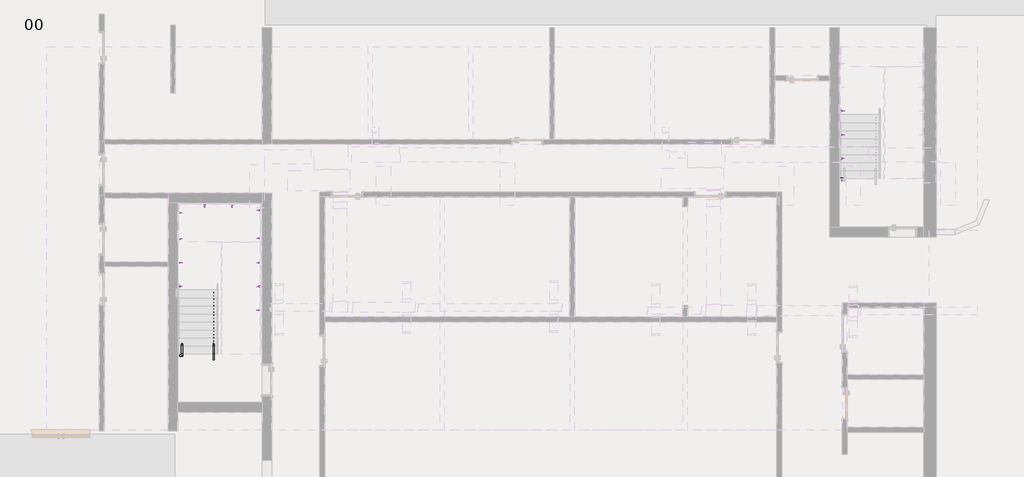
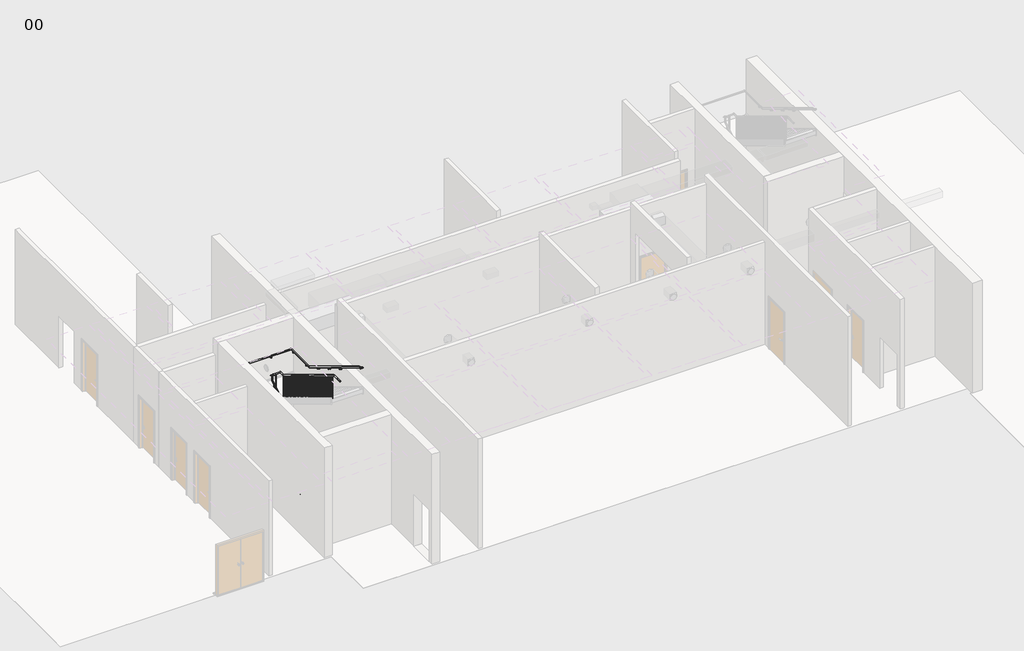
# One storey, part 9 of 12: 15 proxies, 2 railings.
"""IFC4 building model written with IfcOpenShell, lengths in millimetres."""

from ifc_helpers import new_model, si_unit, frame, origin, place, context, project, spatial, polyline, circle_curve, ellipse_curve, outline, extrude, transform, mapped, element, save
from ifc_brep_helpers import plane_surface, cylinder_surface, advanced_brep
from components import support_circular_support_bend_943144f1

model = new_model("IFC4")

# Units and contexts
model_context = context("Model", 3, world=origin())
ifc_project = project(units=[si_unit("LENGTHUNIT", "METRE", prefix="MILLI")], contexts=[model_context])

# Site, building, storey
site = spatial("IfcSite", under=ifc_project)
building = spatial("IfcBuilding", under=site)
storey = spatial("IfcBuildingStorey", under=building, Name="00", Elevation=0.0)

# Proxies
placement = place(None, origin())
support_circular_support_bend_shape = support_circular_support_bend_943144f1(model_context)
element("IfcBuildingElementProxy", 1, Name="Support_ Circular : Support_Bend", ObjectType="Support_ Circular : Support_Bend", at=placement, inside=storey, context=model_context, shape_type="MappedRepresentation", body=[
    mapped(support_circular_support_bend_shape, transform((422506.7206883, -389662.2924977, 2277.0260845), x_axis=(0.0, 1.0, 0.0), y_axis=(-1.0, 0.0, 0.0), z_axis=(0.0, 0.0, 1.0))),
])
element("IfcBuildingElementProxy", 2, Name="Support_ Circular : Support_Bend", ObjectType="Support_ Circular : Support_Bend", at=placement, inside=storey, context=model_context, shape_type="MappedRepresentation", body=[
    mapped(support_circular_support_bend_shape, transform((422506.7206883, -388918.3727809, 2723.3779147), x_axis=(0.0, 1.0, 0.0), y_axis=(-1.0, 0.0, 0.0), z_axis=(0.0, 0.0, 1.0))),
])
element("IfcBuildingElementProxy", 3, Name="Support_ Circular : Support_Bend", ObjectType="Support_ Circular : Support_Bend", at=placement, inside=storey, context=model_context, shape_type="MappedRepresentation", body=[
    mapped(support_circular_support_bend_shape, transform((422506.7206883, -388174.453064, 3169.7297448), x_axis=(0.0, 1.0, 0.0), y_axis=(-1.0, 0.0, 0.0), z_axis=(0.0, 0.0, 1.0))),
])
element("IfcBuildingElementProxy", 4, Name="Support_ Circular : Support_Bend", ObjectType="Support_ Circular : Support_Bend", at=placement, inside=storey, context=model_context, shape_type="MappedRepresentation", body=[
    mapped(support_circular_support_bend_shape, transform((422506.7206883, -387345.753659, 3310.0), x_axis=(0.0, 1.0, 0.0), y_axis=(-1.0, 0.0, 0.0), z_axis=(0.0, 0.0, 1.0))),
])
element("IfcBuildingElementProxy", 5, Name="Support_ Circular : Support_Bend", ObjectType="Support_ Circular : Support_Bend", at=placement, inside=storey, context=model_context, shape_type="MappedRepresentation", body=[
    mapped(support_circular_support_bend_shape, transform((423207.9216845, -387179.4026386, 3310.0), x_axis=(1.0, 0.0, 0.0), y_axis=(0.0, 1.0, 0.0), z_axis=(0.0, 0.0, 1.0))),
])
element("IfcBuildingElementProxy", 6, Name="Support_ Circular : Support_Bend", ObjectType="Support_ Circular : Support_Bend", at=placement, inside=storey, context=model_context, shape_type="MappedRepresentation", body=[
    mapped(support_circular_support_bend_shape, transform((424075.473701, -387179.4026386, 3310.0), x_axis=(1.0, 0.0, 0.0), y_axis=(0.0, 1.0, 0.0), z_axis=(0.0, 0.0, 1.0))),
])
element("IfcBuildingElementProxy", 7, Name="Support_ Circular : Support_Bend", ObjectType="Support_ Circular : Support_Bend", at=placement, inside=storey, context=model_context, shape_type="MappedRepresentation", body=[
    mapped(support_circular_support_bend_shape, transform((424845.9206883, -387276.5076677, 3310.0), x_axis=(0.0, -1.0, 0.0), y_axis=(1.0, 0.0, 0.0), z_axis=(0.0, 0.0, 1.0))),
])
element("IfcBuildingElementProxy", 8, Name="Support_ Circular : Support_Bend", ObjectType="Support_ Circular : Support_Bend", at=placement, inside=storey, context=model_context, shape_type="MappedRepresentation", body=[
    mapped(support_circular_support_bend_shape, transform((424845.9206883, -388144.0596842, 3310.0), x_axis=(0.0, -1.0, 0.0), y_axis=(1.0, 0.0, 0.0), z_axis=(0.0, 0.0, 1.0))),
])
element("IfcBuildingElementProxy", 9, Name="Support_ Circular : Support_Bend", ObjectType="Support_ Circular : Support_Bend", at=placement, inside=storey, context=model_context, shape_type="MappedRepresentation", body=[
    mapped(support_circular_support_bend_shape, transform((424845.9206883, -388918.3727809, 3646.6220853), x_axis=(0.0, -1.0, 0.0), y_axis=(1.0, 0.0, 0.0), z_axis=(0.0, 0.0, 1.0))),
])
element("IfcBuildingElementProxy", 10, Name="Support_ Circular : Support_Bend", ObjectType="Support_ Circular : Support_Bend", at=placement, inside=storey, context=model_context, shape_type="MappedRepresentation", body=[
    mapped(support_circular_support_bend_shape, transform((424845.9206883, -389662.2924977, 4092.9739155), x_axis=(0.0, -1.0, 0.0), y_axis=(1.0, 0.0, 0.0), z_axis=(0.0, 0.0, 1.0))),
])
element("IfcBuildingElementProxy", 11, Name="Support_ Circular : Support_Bend", ObjectType="Support_ Circular : Support_Bend", at=placement, inside=storey, context=model_context, shape_type="MappedRepresentation", body=[
    mapped(support_circular_support_bend_shape, transform((424845.9206883, -390406.2122145, 4539.3257456), x_axis=(0.0, -1.0, 0.0), y_axis=(1.0, 0.0, 0.0), z_axis=(0.0, 0.0, 1.0))),
])
element("IfcBuildingElementProxy", 12, Name="Support_ Circular : Support_Bend", ObjectType="Support_ Circular : Support_Bend", at=placement, inside=storey, context=model_context, shape_type="MappedRepresentation", body=[
    mapped(support_circular_support_bend_shape, transform((443172.7206883, -386335.0026386, 1050.0), x_axis=(1.0, 0.0, 0.0), y_axis=(0.0, 1.0, 0.0), z_axis=(0.0, 0.0, 1.0))),
])
element("IfcBuildingElementProxy", 13, Name="Support_ Circular : Support_Bend", ObjectType="Support_ Circular : Support_Bend", at=placement, inside=storey, context=model_context, shape_type="MappedRepresentation", body=[
    mapped(support_circular_support_bend_shape, transform((443252.7206883, -385650.2172722, 1384.8712198), x_axis=(0.0, 1.0, 0.0), y_axis=(-1.0, 0.0, 0.0), z_axis=(0.0, 0.0, 1.0))),
])
element("IfcBuildingElementProxy", 14, Name="Support_ Circular : Support_Bend", ObjectType="Support_ Circular : Support_Bend", at=placement, inside=storey, context=model_context, shape_type="MappedRepresentation", body=[
    mapped(support_circular_support_bend_shape, transform((443252.7206883, -384905.3828963, 1831.7718454), x_axis=(0.0, 1.0, 0.0), y_axis=(-1.0, 0.0, 0.0), z_axis=(0.0, 0.0, 1.0))),
])
element("IfcBuildingElementProxy", 15, Name="Support_ Circular : Support_Bend", ObjectType="Support_ Circular : Support_Bend", at=placement, inside=storey, context=model_context, shape_type="MappedRepresentation", body=[
    mapped(support_circular_support_bend_shape, transform((443252.7206883, -384160.5485203, 2278.672471), x_axis=(0.0, 1.0, 0.0), y_axis=(-1.0, 0.0, 0.0), z_axis=(0.0, 0.0, 1.0))),
])

# Railings
element("IfcRailing", 16, ObjectType="Concept_900-1100mm_RailStop_Baluster", at=placement, inside=storey, context=model_context, shape_type="SolidModel", body=[
    advanced_brep(
    [(423515.9206883, -391969.0026386, 1030.0), (423475.9206883, -391969.0026386, 1030.0), (423515.9206883, -391768.4629593, 1030.0), (423475.9206883, -391768.4629593, 1030.0), (423515.9206883, -388228.6026386, 3153.9161924), (423475.9206883, -388228.6026386, 3153.9161924), (423515.9206883, -388228.6026386, 3330.0), (423475.9206883, -388228.6026386, 3330.0), (423515.9206883, -388188.6026386, 3330.0), (423475.9206883, -388148.6026386, 3330.0), (423575.9206883, -388188.6026386, 3330.0), (423575.9206883, -388148.6026386, 3330.0), (423836.7206883, -388188.6026386, 3330.0), (423876.7206883, -388148.6026386, 3330.0), (423836.7206883, -388362.8756512, 3330.0), (423876.7206883, -388362.8756512, 3330.0), (423836.7206883, -391779.5423179, 5380.0), (423876.7206883, -391779.5423179, 5380.0), (423836.7206883, -392169.0026386, 5380.0), (423876.7206883, -392169.0026386, 5380.0)],
    [
        (0, 1, circle_curve(frame((423495.9206883, -391969.0026386, 1030.0), z_axis=(0.0, -1.0, 0.0), x_axis=(-1.0, 0.0, 0.0)), 20.0)),
        (1, 0, circle_curve(frame((423495.9206883, -391969.0026386, 1030.0), z_axis=(0.0, -1.0, 0.0), x_axis=(-1.0, 0.0, 0.0)), 20.0)),
        (0, 2),
        (2, 3, ellipse_curve(frame((423495.9206883, -391768.4629593, 1030.0), z_axis=(0.0, -0.9637149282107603, -0.26693358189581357), x_axis=(0.0, -0.26693358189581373, 0.9637149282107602)), 20.753025, 20.0)),
        (3, 1),
        (3, 2, ellipse_curve(frame((423495.9206883, -391768.4629593, 1030.0), z_axis=(0.0, -0.9637149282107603, -0.26693358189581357), x_axis=(0.0, -0.26693358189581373, 0.9637149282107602)), 20.753025, 20.0)),
        (2, 4),
        (4, 5, ellipse_curve(frame((423495.9206883, -388228.6026386, 3153.9161924), z_axis=(0.0, -0.49269881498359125, -0.8701999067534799), x_axis=(0.0, -0.8701999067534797, 0.4926988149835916)), 22.9832247, 20.0)),
        (5, 3),
        (5, 4, ellipse_curve(frame((423495.9206883, -388228.6026386, 3153.9161924), z_axis=(0.0, -0.49269881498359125, -0.8701999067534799), x_axis=(0.0, -0.8701999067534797, 0.4926988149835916)), 22.9832247, 20.0)),
        (4, 6),
        (6, 7, ellipse_curve(frame((423495.9206883, -388228.6026386, 3330.0), z_axis=(0.0, -0.7071067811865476, -0.7071067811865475), x_axis=(0.0, 0.7071067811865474, -0.7071067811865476)), 28.2842712, 20.0)),
        (7, 5),
        (7, 6, ellipse_curve(frame((423495.9206883, -388228.6026386, 3330.0), z_axis=(0.0, -0.7071067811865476, -0.7071067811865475), x_axis=(0.0, 0.7071067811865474, -0.7071067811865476)), 28.2842712, 20.0)),
        (6, 8),
        (8, 9, ellipse_curve(frame((423495.9206883, -388168.6026386, 3330.0), z_axis=(-0.7071067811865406, -0.7071067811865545, 0.0), x_axis=(0.7071067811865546, -0.7071067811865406, 0.0)), 28.2842712, 20.0)),
        (9, 7),
        (9, 8, ellipse_curve(frame((423495.9206883, -388168.6026386, 3330.0), z_axis=(-0.7071067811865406, -0.7071067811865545, 0.0), x_axis=(0.7071067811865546, -0.7071067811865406, 0.0)), 28.2842712, 20.0)),
        (8, 10),
        (10, 11, circle_curve(frame((423575.9206883, -388168.6026386, 3330.0), z_axis=(-1.0, 0.0, 0.0), x_axis=(0.0, 1.0, 0.0)), 20.0)),
        (11, 9),
        (11, 10, circle_curve(frame((423575.9206883, -388168.6026386, 3330.0), z_axis=(-1.0, 0.0, 0.0), x_axis=(0.0, 1.0, 0.0)), 20.0)),
        (10, 12),
        (12, 13, ellipse_curve(frame((423856.7206883, -388168.6026386, 3330.0), z_axis=(-0.7071067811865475, 0.7071067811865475, 0.0), x_axis=(-0.7071067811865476, -0.7071067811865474, 0.0)), 28.2842712, 20.0)),
        (13, 11),
        (13, 12, ellipse_curve(frame((423856.7206883, -388168.6026386, 3330.0), z_axis=(-0.7071067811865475, 0.7071067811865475, 0.0), x_axis=(-0.7071067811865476, -0.7071067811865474, 0.0)), 28.2842712, 20.0)),
        (12, 14),
        (14, 15, ellipse_curve(frame((423856.7206883, -388362.8756512, 3330.0), z_axis=(0.0, 0.9637149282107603, -0.2669335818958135), x_axis=(0.0, 0.26693358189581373, 0.9637149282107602)), 20.753025, 20.0)),
        (15, 13),
        (15, 14, ellipse_curve(frame((423856.7206883, -388362.8756512, 3330.0), z_axis=(0.0, 0.9637149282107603, -0.2669335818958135), x_axis=(0.0, 0.26693358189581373, 0.9637149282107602)), 20.753025, 20.0)),
        (14, 16),
        (16, 17, ellipse_curve(frame((423856.7206883, -391779.5423179, 5380.0), z_axis=(0.0, 0.9637149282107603, -0.2669335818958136), x_axis=(0.0, -0.26693358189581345, -0.9637149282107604)), 20.753025, 20.0)),
        (17, 15),
        (17, 16, ellipse_curve(frame((423856.7206883, -391779.5423179, 5380.0), z_axis=(0.0, 0.9637149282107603, -0.2669335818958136), x_axis=(0.0, -0.26693358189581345, -0.9637149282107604)), 20.753025, 20.0)),
        (18, 19, circle_curve(frame((423856.7206883, -392169.0026386, 5380.0), z_axis=(0.0, -1.0, 0.0), x_axis=(1.0, 0.0, 0.0)), 20.0)),
        (19, 18, circle_curve(frame((423856.7206883, -392169.0026386, 5380.0), z_axis=(0.0, -1.0, 0.0), x_axis=(1.0, 0.0, 0.0)), 20.0)),
        (16, 18),
        (19, 17),
    ],
    [
        plane_surface(frame((423495.9206883, -391969.0026386, 1050.0), z_axis=(0.0, -1.0, 0.0), x_axis=(0.0, 0.0, 1.0))),
        cylinder_surface(frame((423495.9206883, -391969.0026386, 1030.0), z_axis=(0.0, -1.0, 0.0), x_axis=(-1.0, 0.0, 0.0)), 20.0),
        cylinder_surface(frame((423495.9206883, -391763.7127235, 1032.8501415), z_axis=(0.0, -0.857492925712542, -0.5144957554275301), x_axis=(-1.0, 0.0, 0.0)), 20.0),
        cylinder_surface(frame((423495.9206883, -388228.6026386, 3165.24), z_axis=(0.0, 0.0, -1.0), x_axis=(-1.0, 0.0, 0.0)), 20.0),
        cylinder_surface(frame((423495.9206883, -388248.6026386, 3330.0), z_axis=(0.0, -1.0, 0.0), x_axis=(-1.0, 0.0, 0.0)), 20.0),
        cylinder_surface(frame((423495.9206883, -388168.6026386, 3330.0), z_axis=(-1.0, 0.0, 0.0), x_axis=(0.0, 1.0, 0.0)), 20.0),
        cylinder_surface(frame((423575.9206883, -388168.6026386, 3330.0), z_axis=(-1.0, 0.0, 0.0), x_axis=(0.0, 1.0, 0.0)), 20.0),
        cylinder_surface(frame((423856.7206883, -388168.6026386, 3330.0), z_axis=(0.0, 1.0, 0.0), x_axis=(1.0, 0.0, 0.0)), 20.0),
        cylinder_surface(frame((423856.7206883, -388367.6258871, 3332.8501415), z_axis=(0.0, 0.857492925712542, -0.5144957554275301), x_axis=(1.0, 0.0, 0.0)), 20.0),
        plane_surface(frame((423856.7206883, -392169.0026386, 5400.0), z_axis=(0.0, -1.0, 0.0), x_axis=(0.0, 0.0, -1.0))),
        cylinder_surface(frame((423856.7206883, -391774.0026386, 5380.0), z_axis=(0.0, 1.0, 0.0), x_axis=(1.0, 0.0, 0.0)), 20.0),
    ],
    [
        (0, [[1, 2]]),
        (1, [[-1, 3, 4, 5]]),
        (1, [[-2, -5, 6, -3]]),
        (2, [[-4, 7, 8, 9]]),
        (2, [[-6, -9, 10, -7]]),
        (3, [[-8, 11, 12, 13]]),
        (3, [[-10, -13, 14, -11]]),
        (4, [[-12, 15, 16, 17]]),
        (4, [[-14, -17, 18, -15]]),
        (5, [[-16, 19, 20, 21]]),
        (5, [[-18, -21, 22, -19]]),
        (6, [[-20, 23, 24, 25]]),
        (6, [[-22, -25, 26, -23]]),
        (7, [[-24, 27, 28, 29]]),
        (7, [[-26, -29, 30, -27]]),
        (8, [[-28, 31, 32, 33]]),
        (8, [[-30, -33, 34, -31]]),
        (9, [[35, 36]]),
        (10, [[-32, 37, -36, 38]]),
        (10, [[-34, -38, -35, -37]]),
    ],
),
    extrude(outline(polyline([(-391668.2769243, 5289.9169563), (-391668.2769243, 4350.0), (-391678.2769243, 4350.0), (-391678.2769243, 5295.9169563), (-391668.2769243, 5289.9169563)])), frame((423851.7206883, 0.0, 0.0), z_axis=(1.0, 0.0, 0.0), x_axis=(0.0, 1.0, 0.0)), (0.0, 0.0, 1.0), 10.0),
    extrude(outline(polyline([(-391567.55121, 5229.4815277), (-391567.55121, 4350.0), (-391577.55121, 4350.0), (-391577.55121, 5235.4815277), (-391567.55121, 5229.4815277)])), frame((423851.7206883, 0.0, 0.0), z_axis=(1.0, 0.0, 0.0), x_axis=(0.0, 1.0, 0.0)), (0.0, 0.0, 1.0), 10.0),
    extrude(outline(polyline([(-391466.8254958, 5169.0460991), (-391466.8254958, 4200.0), (-391476.8254958, 4200.0), (-391476.8254958, 5175.0460991), (-391466.8254958, 5169.0460991)])), frame((423851.7206883, 0.0, 0.0), z_axis=(1.0, 0.0, 0.0), x_axis=(0.0, 1.0, 0.0)), (0.0, 0.0, 1.0), 10.0),
    extrude(outline(polyline([(-391366.0997815, 5108.6106706), (-391366.0997815, 4200.0), (-391376.0997815, 4200.0), (-391376.0997815, 5114.6106706), (-391366.0997815, 5108.6106706)])), frame((423851.7206883, 0.0, 0.0), z_axis=(1.0, 0.0, 0.0), x_axis=(0.0, 1.0, 0.0)), (0.0, 0.0, 1.0), 10.0),
    extrude(outline(polyline([(-391265.3740672, 5048.175242), (-391265.3740672, 4050.0), (-391275.3740672, 4050.0), (-391275.3740672, 5054.175242), (-391265.3740672, 5048.175242)])), frame((423851.7206883, 0.0, 0.0), z_axis=(1.0, 0.0, 0.0), x_axis=(0.0, 1.0, 0.0)), (0.0, 0.0, 1.0), 10.0),
    extrude(outline(polyline([(-391164.6483529, 4987.7398134), (-391164.6483529, 4050.0), (-391174.6483529, 4050.0), (-391174.6483529, 4993.7398134), (-391164.6483529, 4987.7398134)])), frame((423851.7206883, 0.0, 0.0), z_axis=(1.0, 0.0, 0.0), x_axis=(0.0, 1.0, 0.0)), (0.0, 0.0, 1.0), 10.0),
    extrude(outline(polyline([(-391063.9226386, 4927.3043848), (-391063.9226386, 4050.0), (-391073.9226386, 4050.0), (-391073.9226386, 4933.3043848), (-391063.9226386, 4927.3043848)])), frame((423851.7206883, 0.0, 0.0), z_axis=(1.0, 0.0, 0.0), x_axis=(0.0, 1.0, 0.0)), (0.0, 0.0, 1.0), 10.0),
    extrude(outline(polyline([(-390963.1969243, 4866.8689563), (-390963.1969243, 3900.0), (-390973.1969243, 3900.0), (-390973.1969243, 4872.8689563), (-390963.1969243, 4866.8689563)])), frame((423851.7206883, 0.0, 0.0), z_axis=(1.0, 0.0, 0.0), x_axis=(0.0, 1.0, 0.0)), (0.0, 0.0, 1.0), 10.0),
    extrude(outline(polyline([(-390862.47121, 4806.4335277), (-390862.47121, 3900.0), (-390872.47121, 3900.0), (-390872.47121, 4812.4335277), (-390862.47121, 4806.4335277)])), frame((423851.7206883, 0.0, 0.0), z_axis=(1.0, 0.0, 0.0), x_axis=(0.0, 1.0, 0.0)), (0.0, 0.0, 1.0), 10.0),
    extrude(outline(polyline([(-390761.7454958, 4745.9980991), (-390761.7454958, 3750.0), (-390771.7454958, 3750.0), (-390771.7454958, 4751.9980991), (-390761.7454958, 4745.9980991)])), frame((423851.7206883, 0.0, 0.0), z_axis=(1.0, 0.0, 0.0), x_axis=(0.0, 1.0, 0.0)), (0.0, 0.0, 1.0), 10.0),
    extrude(outline(polyline([(-390661.0197815, 4685.5626706), (-390661.0197815, 3750.0), (-390671.0197815, 3750.0), (-390671.0197815, 4691.5626706), (-390661.0197815, 4685.5626706)])), frame((423851.7206883, 0.0, 0.0), z_axis=(1.0, 0.0, 0.0), x_axis=(0.0, 1.0, 0.0)), (0.0, 0.0, 1.0), 10.0),
    extrude(outline(polyline([(-390560.2940672, 4625.127242), (-390560.2940672, 3750.0), (-390570.2940672, 3750.0), (-390570.2940672, 4631.127242), (-390560.2940672, 4625.127242)])), frame((423851.7206883, 0.0, 0.0), z_axis=(1.0, 0.0, 0.0), x_axis=(0.0, 1.0, 0.0)), (0.0, 0.0, 1.0), 10.0),
    extrude(outline(polyline([(-390459.5683529, 4564.6918134), (-390459.5683529, 3600.0), (-390469.5683529, 3600.0), (-390469.5683529, 4570.6918134), (-390459.5683529, 4564.6918134)])), frame((423851.7206883, 0.0, 0.0), z_axis=(1.0, 0.0, 0.0), x_axis=(0.0, 1.0, 0.0)), (0.0, 0.0, 1.0), 10.0),
    extrude(outline(polyline([(-390358.8426386, 4504.2563848), (-390358.8426386, 3600.0), (-390368.8426386, 3600.0), (-390368.8426386, 4510.2563848), (-390358.8426386, 4504.2563848)])), frame((423851.7206883, 0.0, 0.0), z_axis=(1.0, 0.0, 0.0), x_axis=(0.0, 1.0, 0.0)), (0.0, 0.0, 1.0), 10.0),
    extrude(outline(polyline([(-390258.1169243, 4443.8209563), (-390258.1169243, 3450.0), (-390268.1169243, 3450.0), (-390268.1169243, 4449.8209563), (-390258.1169243, 4443.8209563)])), frame((423851.7206883, 0.0, 0.0), z_axis=(1.0, 0.0, 0.0), x_axis=(0.0, 1.0, 0.0)), (0.0, 0.0, 1.0), 10.0),
    extrude(outline(polyline([(-390157.39121, 4383.3855277), (-390157.39121, 3450.0), (-390167.39121, 3450.0), (-390167.39121, 4389.3855277), (-390157.39121, 4383.3855277)])), frame((423851.7206883, 0.0, 0.0), z_axis=(1.0, 0.0, 0.0), x_axis=(0.0, 1.0, 0.0)), (0.0, 0.0, 1.0), 10.0),
    extrude(outline(polyline([(-390056.6654958, 4322.9500991), (-390056.6654958, 3450.0), (-390066.6654958, 3450.0), (-390066.6654958, 4328.9500991), (-390056.6654958, 4322.9500991)])), frame((423851.7206883, 0.0, 0.0), z_axis=(1.0, 0.0, 0.0), x_axis=(0.0, 1.0, 0.0)), (0.0, 0.0, 1.0), 10.0),
    extrude(outline(polyline([(-389955.9397815, 4262.5146706), (-389955.9397815, 3300.0), (-389965.9397815, 3300.0), (-389965.9397815, 4268.5146706), (-389955.9397815, 4262.5146706)])), frame((423851.7206883, 0.0, 0.0), z_axis=(1.0, 0.0, 0.0), x_axis=(0.0, 1.0, 0.0)), (0.0, 0.0, 1.0), 10.0),
    extrude(outline(polyline([(-389855.2140672, 4202.079242), (-389855.2140672, 3300.0), (-389865.2140672, 3300.0), (-389865.2140672, 4208.079242), (-389855.2140672, 4202.079242)])), frame((423851.7206883, 0.0, 0.0), z_axis=(1.0, 0.0, 0.0), x_axis=(0.0, 1.0, 0.0)), (0.0, 0.0, 1.0), 10.0),
    extrude(outline(polyline([(-389754.4883529, 4141.6438134), (-389754.4883529, 3150.0), (-389764.4883529, 3150.0), (-389764.4883529, 4147.6438134), (-389754.4883529, 4141.6438134)])), frame((423851.7206883, 0.0, 0.0), z_axis=(1.0, 0.0, 0.0), x_axis=(0.0, 1.0, 0.0)), (0.0, 0.0, 1.0), 10.0),
    extrude(outline(polyline([(-389653.7626386, 4081.2083848), (-389653.7626386, 3150.0), (-389663.7626386, 3150.0), (-389663.7626386, 4087.2083848), (-389653.7626386, 4081.2083848)])), frame((423851.7206883, 0.0, 0.0), z_axis=(1.0, 0.0, 0.0), x_axis=(0.0, 1.0, 0.0)), (0.0, 0.0, 1.0), 10.0),
    extrude(outline(polyline([(-389553.0369243, 4020.7729563), (-389553.0369243, 3150.0), (-389563.0369243, 3150.0), (-389563.0369243, 4026.7729563), (-389553.0369243, 4020.7729563)])), frame((423851.7206883, 0.0, 0.0), z_axis=(1.0, 0.0, 0.0), x_axis=(0.0, 1.0, 0.0)), (0.0, 0.0, 1.0), 10.0),
    extrude(outline(polyline([(-389452.31121, 3960.3375277), (-389452.31121, 3000.0), (-389462.31121, 3000.0), (-389462.31121, 3966.3375277), (-389452.31121, 3960.3375277)])), frame((423851.7206883, 0.0, 0.0), z_axis=(1.0, 0.0, 0.0), x_axis=(0.0, 1.0, 0.0)), (0.0, 0.0, 1.0), 10.0),
    extrude(outline(polyline([(-389351.5854958, 3899.9020991), (-389351.5854958, 3000.0), (-389361.5854958, 3000.0), (-389361.5854958, 3905.9020991), (-389351.5854958, 3899.9020991)])), frame((423851.7206883, 0.0, 0.0), z_axis=(1.0, 0.0, 0.0), x_axis=(0.0, 1.0, 0.0)), (0.0, 0.0, 1.0), 10.0),
    extrude(outline(polyline([(-389250.8597815, 3839.4666706), (-389250.8597815, 2850.0), (-389260.8597815, 2850.0), (-389260.8597815, 3845.4666706), (-389250.8597815, 3839.4666706)])), frame((423851.7206883, 0.0, 0.0), z_axis=(1.0, 0.0, 0.0), x_axis=(0.0, 1.0, 0.0)), (0.0, 0.0, 1.0), 10.0),
    extrude(outline(polyline([(-389150.1340672, 3779.031242), (-389150.1340672, 2850.0), (-389160.1340672, 2850.0), (-389160.1340672, 3785.031242), (-389150.1340672, 3779.031242)])), frame((423851.7206883, 0.0, 0.0), z_axis=(1.0, 0.0, 0.0), x_axis=(0.0, 1.0, 0.0)), (0.0, 0.0, 1.0), 10.0),
    extrude(outline(polyline([(-389049.4083529, 3718.5958134), (-389049.4083529, 2850.0), (-389059.4083529, 2850.0), (-389059.4083529, 3724.5958134), (-389049.4083529, 3718.5958134)])), frame((423851.7206883, 0.0, 0.0), z_axis=(1.0, 0.0, 0.0), x_axis=(0.0, 1.0, 0.0)), (0.0, 0.0, 1.0), 10.0),
    extrude(outline(polyline([(-388948.6826386, 3658.1603848), (-388948.6826386, 2700.0), (-388958.6826386, 2700.0), (-388958.6826386, 3664.1603848), (-388948.6826386, 3658.1603848)])), frame((423851.7206883, 0.0, 0.0), z_axis=(1.0, 0.0, 0.0), x_axis=(0.0, 1.0, 0.0)), (0.0, 0.0, 1.0), 10.0),
    extrude(outline(polyline([(-388847.9569243, 3597.7249563), (-388847.9569243, 2700.0), (-388857.9569243, 2700.0), (-388857.9569243, 3603.7249563), (-388847.9569243, 3597.7249563)])), frame((423851.7206883, 0.0, 0.0), z_axis=(1.0, 0.0, 0.0), x_axis=(0.0, 1.0, 0.0)), (0.0, 0.0, 1.0), 10.0),
    extrude(outline(polyline([(-388747.23121, 3537.2895277), (-388747.23121, 2550.0), (-388757.23121, 2550.0), (-388757.23121, 3543.2895277), (-388747.23121, 3537.2895277)])), frame((423851.7206883, 0.0, 0.0), z_axis=(1.0, 0.0, 0.0), x_axis=(0.0, 1.0, 0.0)), (0.0, 0.0, 1.0), 10.0),
    extrude(outline(polyline([(-388646.5054958, 3476.8540991), (-388646.5054958, 2550.0), (-388656.5054958, 2550.0), (-388656.5054958, 3482.8540991), (-388646.5054958, 3476.8540991)])), frame((423851.7206883, 0.0, 0.0), z_axis=(1.0, 0.0, 0.0), x_axis=(0.0, 1.0, 0.0)), (0.0, 0.0, 1.0), 10.0),
    extrude(outline(polyline([(-388545.7797815, 3416.4186706), (-388545.7797815, 2550.0), (-388555.7797815, 2550.0), (-388555.7797815, 3422.4186706), (-388545.7797815, 3416.4186706)])), frame((423851.7206883, 0.0, 0.0), z_axis=(1.0, 0.0, 0.0), x_axis=(0.0, 1.0, 0.0)), (0.0, 0.0, 1.0), 10.0),
    extrude(outline(polyline([(-388445.0540672, 3355.983242), (-388445.0540672, 2400.0), (-388455.0540672, 2400.0), (-388455.0540672, 3361.983242), (-388445.0540672, 3355.983242)])), frame((423851.7206883, 0.0, 0.0), z_axis=(1.0, 0.0, 0.0), x_axis=(0.0, 1.0, 0.0)), (0.0, 0.0, 1.0), 10.0),
    extrude(outline(polyline([(423851.7206883, -388344.3283529), (423861.7206883, -388344.3283529), (423861.7206883, -388354.3283529), (423851.7206883, -388354.3283529), (423851.7206883, -388344.3283529)])), frame((0.0, 0.0, 2400.0), z_axis=(0.0, 0.0, 1.0), x_axis=(1.0, 0.0, 0.0)), (0.0, 0.0, 1.0), 910.0),
    extrude(outline(polyline([(423671.3206883, -388173.6026386), (423671.3206883, -388163.6026386), (423681.3206883, -388163.6026386), (423681.3206883, -388173.6026386), (423671.3206883, -388173.6026386)])), frame((0.0, 0.0, 2250.0), z_axis=(0.0, 0.0, 1.0), x_axis=(1.0, 0.0, 0.0)), (0.0, 0.0, 1.0), 1060.0),
    extrude(outline(polyline([(-388354.3283529, 2100.0), (-388354.3283529, 3055.1569563), (-388344.3283529, 3061.1569563), (-388344.3283529, 2100.0), (-388354.3283529, 2100.0)])), frame((423490.9206883, 0.0, 0.0), z_axis=(1.0, 0.0, 0.0), x_axis=(0.0, 1.0, 0.0)), (0.0, 0.0, 1.0), 10.0),
    extrude(outline(polyline([(-388455.0540672, 2100.0), (-388455.0540672, 2994.7215277), (-388445.0540672, 3000.7215277), (-388445.0540672, 2100.0), (-388455.0540672, 2100.0)])), frame((423490.9206883, 0.0, 0.0), z_axis=(1.0, 0.0, 0.0), x_axis=(0.0, 1.0, 0.0)), (0.0, 0.0, 1.0), 10.0),
    extrude(outline(polyline([(-388555.7797815, 1950.0), (-388555.7797815, 2934.2860991), (-388545.7797815, 2940.2860991), (-388545.7797815, 1950.0), (-388555.7797815, 1950.0)])), frame((423490.9206883, 0.0, 0.0), z_axis=(1.0, 0.0, 0.0), x_axis=(0.0, 1.0, 0.0)), (0.0, 0.0, 1.0), 10.0),
    extrude(outline(polyline([(-388656.5054958, 1950.0), (-388656.5054958, 2873.8506706), (-388646.5054958, 2879.8506706), (-388646.5054958, 1950.0), (-388656.5054958, 1950.0)])), frame((423490.9206883, 0.0, 0.0), z_axis=(1.0, 0.0, 0.0), x_axis=(0.0, 1.0, 0.0)), (0.0, 0.0, 1.0), 10.0),
    extrude(outline(polyline([(-388757.23121, 1950.0), (-388757.23121, 2813.415242), (-388747.23121, 2819.415242), (-388747.23121, 1950.0), (-388757.23121, 1950.0)])), frame((423490.9206883, 0.0, 0.0), z_axis=(1.0, 0.0, 0.0), x_axis=(0.0, 1.0, 0.0)), (0.0, 0.0, 1.0), 10.0),
    extrude(outline(polyline([(-388857.9569243, 1800.0), (-388857.9569243, 2752.9798134), (-388847.9569243, 2758.9798134), (-388847.9569243, 1800.0), (-388857.9569243, 1800.0)])), frame((423490.9206883, 0.0, 0.0), z_axis=(1.0, 0.0, 0.0), x_axis=(0.0, 1.0, 0.0)), (0.0, 0.0, 1.0), 10.0),
    extrude(outline(polyline([(-388958.6826386, 1800.0), (-388958.6826386, 2692.5443848), (-388948.6826386, 2698.5443848), (-388948.6826386, 1800.0), (-388958.6826386, 1800.0)])), frame((423490.9206883, 0.0, 0.0), z_axis=(1.0, 0.0, 0.0), x_axis=(0.0, 1.0, 0.0)), (0.0, 0.0, 1.0), 10.0),
    extrude(outline(polyline([(-389059.4083529, 1650.0), (-389059.4083529, 2632.1089563), (-389049.4083529, 2638.1089563), (-389049.4083529, 1650.0), (-389059.4083529, 1650.0)])), frame((423490.9206883, 0.0, 0.0), z_axis=(1.0, 0.0, 0.0), x_axis=(0.0, 1.0, 0.0)), (0.0, 0.0, 1.0), 10.0),
    extrude(outline(polyline([(-389160.1340672, 1650.0), (-389160.1340672, 2571.6735277), (-389150.1340672, 2577.6735277), (-389150.1340672, 1650.0), (-389160.1340672, 1650.0)])), frame((423490.9206883, 0.0, 0.0), z_axis=(1.0, 0.0, 0.0), x_axis=(0.0, 1.0, 0.0)), (0.0, 0.0, 1.0), 10.0),
    extrude(outline(polyline([(-389260.8597815, 1650.0), (-389260.8597815, 2511.2380991), (-389250.8597815, 2517.2380991), (-389250.8597815, 1650.0), (-389260.8597815, 1650.0)])), frame((423490.9206883, 0.0, 0.0), z_axis=(1.0, 0.0, 0.0), x_axis=(0.0, 1.0, 0.0)), (0.0, 0.0, 1.0), 10.0),
    extrude(outline(polyline([(-389361.5854958, 1500.0), (-389361.5854958, 2450.8026706), (-389351.5854958, 2456.8026706), (-389351.5854958, 1500.0), (-389361.5854958, 1500.0)])), frame((423490.9206883, 0.0, 0.0), z_axis=(1.0, 0.0, 0.0), x_axis=(0.0, 1.0, 0.0)), (0.0, 0.0, 1.0), 10.0),
    extrude(outline(polyline([(-389462.31121, 1500.0), (-389462.31121, 2390.367242), (-389452.31121, 2396.367242), (-389452.31121, 1500.0), (-389462.31121, 1500.0)])), frame((423490.9206883, 0.0, 0.0), z_axis=(1.0, 0.0, 0.0), x_axis=(0.0, 1.0, 0.0)), (0.0, 0.0, 1.0), 10.0),
    extrude(outline(polyline([(-389563.0369243, 1350.0), (-389563.0369243, 2329.9318134), (-389553.0369243, 2335.9318134), (-389553.0369243, 1350.0), (-389563.0369243, 1350.0)])), frame((423490.9206883, 0.0, 0.0), z_axis=(1.0, 0.0, 0.0), x_axis=(0.0, 1.0, 0.0)), (0.0, 0.0, 1.0), 10.0),
    extrude(outline(polyline([(-389663.7626386, 1350.0), (-389663.7626386, 2269.4963848), (-389653.7626386, 2275.4963848), (-389653.7626386, 1350.0), (-389663.7626386, 1350.0)])), frame((423490.9206883, 0.0, 0.0), z_axis=(1.0, 0.0, 0.0), x_axis=(0.0, 1.0, 0.0)), (0.0, 0.0, 1.0), 10.0),
    extrude(outline(polyline([(-389764.4883529, 1350.0), (-389764.4883529, 2209.0609563), (-389754.4883529, 2215.0609563), (-389754.4883529, 1350.0), (-389764.4883529, 1350.0)])), frame((423490.9206883, 0.0, 0.0), z_axis=(1.0, 0.0, 0.0), x_axis=(0.0, 1.0, 0.0)), (0.0, 0.0, 1.0), 10.0),
    extrude(outline(polyline([(-389865.2140672, 1200.0), (-389865.2140672, 2148.6255277), (-389855.2140672, 2154.6255277), (-389855.2140672, 1200.0), (-389865.2140672, 1200.0)])), frame((423490.9206883, 0.0, 0.0), z_axis=(1.0, 0.0, 0.0), x_axis=(0.0, 1.0, 0.0)), (0.0, 0.0, 1.0), 10.0),
    extrude(outline(polyline([(-389965.9397815, 1200.0), (-389965.9397815, 2088.1900991), (-389955.9397815, 2094.1900991), (-389955.9397815, 1200.0), (-389965.9397815, 1200.0)])), frame((423490.9206883, 0.0, 0.0), z_axis=(1.0, 0.0, 0.0), x_axis=(0.0, 1.0, 0.0)), (0.0, 0.0, 1.0), 10.0),
    extrude(outline(polyline([(-390066.6654958, 1050.0), (-390066.6654958, 2027.7546706), (-390056.6654958, 2033.7546706), (-390056.6654958, 1050.0), (-390066.6654958, 1050.0)])), frame((423490.9206883, 0.0, 0.0), z_axis=(1.0, 0.0, 0.0), x_axis=(0.0, 1.0, 0.0)), (0.0, 0.0, 1.0), 10.0),
    extrude(outline(polyline([(-390167.39121, 1050.0), (-390167.39121, 1967.319242), (-390157.39121, 1973.319242), (-390157.39121, 1050.0), (-390167.39121, 1050.0)])), frame((423490.9206883, 0.0, 0.0), z_axis=(1.0, 0.0, 0.0), x_axis=(0.0, 1.0, 0.0)), (0.0, 0.0, 1.0), 10.0),
    extrude(outline(polyline([(-390268.1169243, 1050.0), (-390268.1169243, 1906.8838134), (-390258.1169243, 1912.8838134), (-390258.1169243, 1050.0), (-390268.1169243, 1050.0)])), frame((423490.9206883, 0.0, 0.0), z_axis=(1.0, 0.0, 0.0), x_axis=(0.0, 1.0, 0.0)), (0.0, 0.0, 1.0), 10.0),
    extrude(outline(polyline([(-390368.8426386, 900.0), (-390368.8426386, 1846.4483848), (-390358.8426386, 1852.4483848), (-390358.8426386, 900.0), (-390368.8426386, 900.0)])), frame((423490.9206883, 0.0, 0.0), z_axis=(1.0, 0.0, 0.0), x_axis=(0.0, 1.0, 0.0)), (0.0, 0.0, 1.0), 10.0),
    extrude(outline(polyline([(-390469.5683529, 900.0), (-390469.5683529, 1786.0129563), (-390459.5683529, 1792.0129563), (-390459.5683529, 900.0), (-390469.5683529, 900.0)])), frame((423490.9206883, 0.0, 0.0), z_axis=(1.0, 0.0, 0.0), x_axis=(0.0, 1.0, 0.0)), (0.0, 0.0, 1.0), 10.0),
    extrude(outline(polyline([(-390570.2940672, 750.0), (-390570.2940672, 1725.5775277), (-390560.2940672, 1731.5775277), (-390560.2940672, 750.0), (-390570.2940672, 750.0)])), frame((423490.9206883, 0.0, 0.0), z_axis=(1.0, 0.0, 0.0), x_axis=(0.0, 1.0, 0.0)), (0.0, 0.0, 1.0), 10.0),
    extrude(outline(polyline([(-390671.0197815, 750.0), (-390671.0197815, 1665.1420991), (-390661.0197815, 1671.1420991), (-390661.0197815, 750.0), (-390671.0197815, 750.0)])), frame((423490.9206883, 0.0, 0.0), z_axis=(1.0, 0.0, 0.0), x_axis=(0.0, 1.0, 0.0)), (0.0, 0.0, 1.0), 10.0),
    extrude(outline(polyline([(-390771.7454958, 750.0), (-390771.7454958, 1604.7066706), (-390761.7454958, 1610.7066706), (-390761.7454958, 750.0), (-390771.7454958, 750.0)])), frame((423490.9206883, 0.0, 0.0), z_axis=(1.0, 0.0, 0.0), x_axis=(0.0, 1.0, 0.0)), (0.0, 0.0, 1.0), 10.0),
    extrude(outline(polyline([(-390872.47121, 600.0), (-390872.47121, 1544.271242), (-390862.47121, 1550.271242), (-390862.47121, 600.0), (-390872.47121, 600.0)])), frame((423490.9206883, 0.0, 0.0), z_axis=(1.0, 0.0, 0.0), x_axis=(0.0, 1.0, 0.0)), (0.0, 0.0, 1.0), 10.0),
    extrude(outline(polyline([(-390973.1969243, 600.0), (-390973.1969243, 1483.8358134), (-390963.1969243, 1489.8358134), (-390963.1969243, 600.0), (-390973.1969243, 600.0)])), frame((423490.9206883, 0.0, 0.0), z_axis=(1.0, 0.0, 0.0), x_axis=(0.0, 1.0, 0.0)), (0.0, 0.0, 1.0), 10.0),
    extrude(outline(polyline([(-391073.9226386, 450.0), (-391073.9226386, 1423.4003848), (-391063.9226386, 1429.4003848), (-391063.9226386, 450.0), (-391073.9226386, 450.0)])), frame((423490.9206883, 0.0, 0.0), z_axis=(1.0, 0.0, 0.0), x_axis=(0.0, 1.0, 0.0)), (0.0, 0.0, 1.0), 10.0),
    extrude(outline(polyline([(-391174.6483529, 450.0), (-391174.6483529, 1362.9649563), (-391164.6483529, 1368.9649563), (-391164.6483529, 450.0), (-391174.6483529, 450.0)])), frame((423490.9206883, 0.0, 0.0), z_axis=(1.0, 0.0, 0.0), x_axis=(0.0, 1.0, 0.0)), (0.0, 0.0, 1.0), 10.0),
    extrude(outline(polyline([(-391275.3740672, 450.0), (-391275.3740672, 1302.5295277), (-391265.3740672, 1308.5295277), (-391265.3740672, 450.0), (-391275.3740672, 450.0)])), frame((423490.9206883, 0.0, 0.0), z_axis=(1.0, 0.0, 0.0), x_axis=(0.0, 1.0, 0.0)), (0.0, 0.0, 1.0), 10.0),
    extrude(outline(polyline([(-391376.0997815, 300.0), (-391376.0997815, 1242.0940991), (-391366.0997815, 1248.0940991), (-391366.0997815, 300.0), (-391376.0997815, 300.0)])), frame((423490.9206883, 0.0, 0.0), z_axis=(1.0, 0.0, 0.0), x_axis=(0.0, 1.0, 0.0)), (0.0, 0.0, 1.0), 10.0),
    extrude(outline(polyline([(-391476.8254958, 300.0), (-391476.8254958, 1181.6586706), (-391466.8254958, 1187.6586706), (-391466.8254958, 300.0), (-391476.8254958, 300.0)])), frame((423490.9206883, 0.0, 0.0), z_axis=(1.0, 0.0, 0.0), x_axis=(0.0, 1.0, 0.0)), (0.0, 0.0, 1.0), 10.0),
    extrude(outline(polyline([(-391577.55121, 150.0), (-391577.55121, 1121.223242), (-391567.55121, 1127.223242), (-391567.55121, 150.0), (-391577.55121, 150.0)])), frame((423490.9206883, 0.0, 0.0), z_axis=(1.0, 0.0, 0.0), x_axis=(0.0, 1.0, 0.0)), (0.0, 0.0, 1.0), 10.0),
    extrude(outline(polyline([(-391678.2769243, 150.0), (-391678.2769243, 1060.7878134), (-391668.2769243, 1066.7878134), (-391668.2769243, 150.0), (-391678.2769243, 150.0)])), frame((423490.9206883, 0.0, 0.0), z_axis=(1.0, 0.0, 0.0), x_axis=(0.0, 1.0, 0.0)), (0.0, 0.0, 1.0), 10.0),
    extrude(outline(polyline([(423671.7206883, -388173.6026386), (423671.7206883, -388163.6026386), (423681.7206883, -388163.6026386), (423681.7206883, -388173.6026386), (423671.7206883, -388173.6026386)])), frame((0.0, 0.0, 2250.0), z_axis=(0.0, 0.0, 1.0), x_axis=(1.0, 0.0, 0.0)), (0.0, 0.0, 1.0), 1060.0),
    extrude(outline(polyline([(-388353.6026386, 2100.0), (-388353.6026386, 3055.5923848), (-388343.6026386, 3061.5923848), (-388343.6026386, 2100.0), (-388353.6026386, 2100.0)])), frame((423490.9206883, 0.0, 0.0), z_axis=(1.0, 0.0, 0.0), x_axis=(0.0, 1.0, 0.0)), (0.0, 0.0, 1.0), 10.0),
    extrude(outline(polyline([(-391669.0026386, 5290.3523848), (-391669.0026386, 4350.0), (-391679.0026386, 4350.0), (-391679.0026386, 5296.3523848), (-391669.0026386, 5290.3523848)])), frame((423851.7206883, 0.0, 0.0), z_axis=(1.0, 0.0, 0.0), x_axis=(0.0, 1.0, 0.0)), (0.0, 0.0, 1.0), 10.0),
    extrude(outline(polyline([(-391879.0026386, 90.0), (-391879.0026386, 940.3523848), (-391869.0026386, 946.3523848), (-391869.0026386, 90.0), (-391879.0026386, 90.0)])), frame((423490.9206883, 0.0, 0.0), z_axis=(1.0, 0.0, 0.0), x_axis=(0.0, 1.0, 0.0)), (0.0, 0.0, 1.0), 10.0),
])
element("IfcRailing", 17, ObjectType="Concept_900-1100mm_RailtoWall_WallMount", at=placement, inside=storey, context=model_context, shape_type="AdvancedBrep", body=[
    advanced_brep(
    [(422426.7206883, -391854.0026386, 1030.0), (422426.7206883, -391814.0026386, 1030.0), (422526.7206883, -391854.0026386, 1030.0), (422486.7206883, -391814.0026386, 1030.0), (422526.7206883, -391768.4629593, 1030.0), (422486.7206883, -391768.4629593, 1030.0), (422526.7206883, -388263.7127235, 3132.8501415), (422486.7206883, -388263.7127235, 3132.8501415), (422526.7206883, -387935.129626, 3330.0), (422486.7206883, -387935.129626, 3330.0), (422526.7206883, -387199.4026386, 3330.0), (422486.7206883, -387159.4026386, 3330.0), (424825.9206883, -387199.4026386, 3330.0), (424865.9206883, -387159.4026386, 3330.0), (424825.9206883, -388274.0026386, 3330.0), (424865.9206883, -388274.0026386, 3330.0), (424825.9206883, -388362.8756512, 3330.0), (424865.9206883, -388362.8756512, 3330.0), (424825.9206883, -391779.5423179, 5380.0), (424865.9206883, -391779.5423179, 5380.0), (424825.9206883, -391854.0026386, 5380.0), (424865.9206883, -391814.0026386, 5380.0), (424925.9206883, -391854.0026386, 5380.0), (424925.9206883, -391814.0026386, 5380.0)],
    [
        (0, 1, circle_curve(frame((422426.7206883, -391834.0026386, 1030.0), z_axis=(-1.0, 0.0, 0.0), x_axis=(0.0, 1.0, 0.0)), 20.0)),
        (1, 0, circle_curve(frame((422426.7206883, -391834.0026386, 1030.0), z_axis=(-1.0, 0.0, 0.0), x_axis=(0.0, 1.0, 0.0)), 20.0)),
        (0, 2),
        (2, 3, ellipse_curve(frame((422506.7206883, -391834.0026386, 1030.0), z_axis=(-0.7071067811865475, -0.7071067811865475, 0.0), x_axis=(-0.7071067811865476, 0.7071067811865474, 0.0)), 28.2842712, 20.0)),
        (3, 1),
        (3, 2, ellipse_curve(frame((422506.7206883, -391834.0026386, 1030.0), z_axis=(-0.7071067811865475, -0.7071067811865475, 0.0), x_axis=(-0.7071067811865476, 0.7071067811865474, 0.0)), 28.2842712, 20.0)),
        (2, 4),
        (4, 5, ellipse_curve(frame((422506.7206883, -391768.4629593, 1030.0), z_axis=(0.0, -0.9637149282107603, -0.26693358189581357), x_axis=(0.0, -0.26693358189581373, 0.9637149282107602)), 20.753025, 20.0)),
        (5, 3),
        (5, 4, ellipse_curve(frame((422506.7206883, -391768.4629593, 1030.0), z_axis=(0.0, -0.9637149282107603, -0.26693358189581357), x_axis=(0.0, -0.26693358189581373, 0.9637149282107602)), 20.753025, 20.0)),
        (4, 6),
        (6, 7, circle_curve(frame((422506.7206883, -388263.7127235, 3132.8501415), z_axis=(0.0, -0.857492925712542, -0.5144957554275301), x_axis=(-1.0, 0.0, 0.0)), 20.0)),
        (7, 5),
        (7, 6, circle_curve(frame((422506.7206883, -388263.7127235, 3132.8501415), z_axis=(0.0, -0.857492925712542, -0.5144957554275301), x_axis=(-1.0, 0.0, 0.0)), 20.0)),
        (6, 8),
        (8, 9, ellipse_curve(frame((422506.7206883, -387935.129626, 3330.0), z_axis=(0.0, -0.9637149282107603, -0.2669335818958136), x_axis=(0.0, 0.26693358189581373, -0.9637149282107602)), 20.753025, 20.0)),
        (9, 7),
        (9, 8, ellipse_curve(frame((422506.7206883, -387935.129626, 3330.0), z_axis=(0.0, -0.9637149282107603, -0.2669335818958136), x_axis=(0.0, 0.26693358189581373, -0.9637149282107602)), 20.753025, 20.0)),
        (8, 10),
        (10, 11, ellipse_curve(frame((422506.7206883, -387179.4026386, 3330.0), z_axis=(-0.7071067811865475, -0.7071067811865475, 0.0), x_axis=(0.7071067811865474, -0.7071067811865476, 0.0)), 28.2842712, 20.0)),
        (11, 9),
        (11, 10, ellipse_curve(frame((422506.7206883, -387179.4026386, 3330.0), z_axis=(-0.7071067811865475, -0.7071067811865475, 0.0), x_axis=(0.7071067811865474, -0.7071067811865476, 0.0)), 28.2842712, 20.0)),
        (10, 12),
        (12, 13, ellipse_curve(frame((424845.9206883, -387179.4026386, 3330.0), z_axis=(-0.7071067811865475, 0.7071067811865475, 0.0), x_axis=(-0.7071067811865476, -0.7071067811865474, 0.0)), 28.2842712, 20.0)),
        (13, 11),
        (13, 12, ellipse_curve(frame((424845.9206883, -387179.4026386, 3330.0), z_axis=(-0.7071067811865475, 0.7071067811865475, 0.0), x_axis=(-0.7071067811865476, -0.7071067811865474, 0.0)), 28.2842712, 20.0)),
        (12, 14),
        (14, 15, circle_curve(frame((424845.9206883, -388274.0026386, 3330.0), z_axis=(0.0, 1.0, 0.0), x_axis=(1.0, 0.0, 0.0)), 20.0)),
        (15, 13),
        (15, 14, circle_curve(frame((424845.9206883, -388274.0026386, 3330.0), z_axis=(0.0, 1.0, 0.0), x_axis=(1.0, 0.0, 0.0)), 20.0)),
        (14, 16),
        (16, 17, ellipse_curve(frame((424845.9206883, -388362.8756512, 3330.0), z_axis=(0.0, 0.9637149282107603, -0.26693358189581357), x_axis=(0.0, 0.26693358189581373, 0.9637149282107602)), 20.753025, 20.0)),
        (17, 15),
        (17, 16, ellipse_curve(frame((424845.9206883, -388362.8756512, 3330.0), z_axis=(0.0, 0.9637149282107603, -0.26693358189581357), x_axis=(0.0, 0.26693358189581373, 0.9637149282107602)), 20.753025, 20.0)),
        (16, 18),
        (18, 19, ellipse_curve(frame((424845.9206883, -391779.5423179, 5380.0), z_axis=(0.0, 0.9637149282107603, -0.2669335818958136), x_axis=(0.0, -0.26693358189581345, -0.9637149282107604)), 20.753025, 20.0)),
        (19, 17),
        (19, 18, ellipse_curve(frame((424845.9206883, -391779.5423179, 5380.0), z_axis=(0.0, 0.9637149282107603, -0.2669335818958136), x_axis=(0.0, -0.26693358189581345, -0.9637149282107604)), 20.753025, 20.0)),
        (18, 20),
        (20, 21, ellipse_curve(frame((424845.9206883, -391834.0026386, 5380.0), z_axis=(-0.7071067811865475, 0.7071067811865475, 0.0), x_axis=(0.7071067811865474, 0.7071067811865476, 0.0)), 28.2842712, 20.0)),
        (21, 19),
        (21, 20, ellipse_curve(frame((424845.9206883, -391834.0026386, 5380.0), z_axis=(-0.7071067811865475, 0.7071067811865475, 0.0), x_axis=(0.7071067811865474, 0.7071067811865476, 0.0)), 28.2842712, 20.0)),
        (22, 23, circle_curve(frame((424925.9206883, -391834.0026386, 5380.0), z_axis=(1.0, 0.0, 0.0), x_axis=(0.0, 1.0, 0.0)), 20.0)),
        (23, 22, circle_curve(frame((424925.9206883, -391834.0026386, 5380.0), z_axis=(1.0, 0.0, 0.0), x_axis=(0.0, 1.0, 0.0)), 20.0)),
        (20, 22),
        (23, 21),
    ],
    [
        plane_surface(frame((422426.7206883, -391834.0026386, 1050.0), z_axis=(-1.0, 0.0, 0.0), x_axis=(0.0, 1.0, 0.0))),
        cylinder_surface(frame((422426.7206883, -391834.0026386, 1030.0), z_axis=(-1.0, 0.0, 0.0), x_axis=(0.0, 1.0, 0.0)), 20.0),
        cylinder_surface(frame((422506.7206883, -391834.0026386, 1030.0), z_axis=(0.0, -1.0, 0.0), x_axis=(-1.0, 0.0, 0.0)), 20.0),
        cylinder_surface(frame((422506.7206883, -391763.7127235, 1032.8501415), z_axis=(0.0, -0.857492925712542, -0.5144957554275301), x_axis=(-1.0, 0.0, 0.0)), 20.0),
        cylinder_surface(frame((422506.7206883, -388263.7127235, 3132.8501415), z_axis=(0.0, -0.857492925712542, -0.5144957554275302), x_axis=(-1.0, 0.0, 0.0)), 20.0),
        cylinder_surface(frame((422506.7206883, -387940.6693053, 3330.0), z_axis=(0.0, -1.0, 0.0), x_axis=(-1.0, 0.0, 0.0)), 20.0),
        cylinder_surface(frame((422506.7206883, -387179.4026386, 3330.0), z_axis=(-1.0, 0.0, 0.0), x_axis=(0.0, 1.0, 0.0)), 20.0),
        cylinder_surface(frame((424845.9206883, -387179.4026386, 3330.0), z_axis=(0.0, 1.0, 0.0), x_axis=(1.0, 0.0, 0.0)), 20.0),
        cylinder_surface(frame((424845.9206883, -388274.0026386, 3330.0), z_axis=(0.0, 1.0, 0.0), x_axis=(1.0, 0.0, 0.0)), 20.0),
        cylinder_surface(frame((424845.9206883, -388367.6258871, 3332.8501415), z_axis=(0.0, 0.857492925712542, -0.5144957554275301), x_axis=(1.0, 0.0, 0.0)), 20.0),
        cylinder_surface(frame((424845.9206883, -391774.0026386, 5380.0), z_axis=(0.0, 1.0, 0.0), x_axis=(1.0, 0.0, 0.0)), 20.0),
        plane_surface(frame((424925.9206883, -391834.0026386, 5400.0), z_axis=(1.0, 0.0, 0.0), x_axis=(0.0, 1.0, 0.0))),
        cylinder_surface(frame((424845.9206883, -391834.0026386, 5380.0), z_axis=(-1.0, 0.0, 0.0), x_axis=(0.0, 1.0, 0.0)), 20.0),
    ],
    [
        (0, [[1, 2]]),
        (1, [[-1, 3, 4, 5]]),
        (1, [[-2, -5, 6, -3]]),
        (2, [[-4, 7, 8, 9]]),
        (2, [[-6, -9, 10, -7]]),
        (3, [[-8, 11, 12, 13]]),
        (3, [[-10, -13, 14, -11]]),
        (4, [[-12, 15, 16, 17]]),
        (4, [[-14, -17, 18, -15]]),
        (5, [[-16, 19, 20, 21]]),
        (5, [[-18, -21, 22, -19]]),
        (6, [[-20, 23, 24, 25]]),
        (6, [[-22, -25, 26, -23]]),
        (7, [[-24, 27, 28, 29]]),
        (7, [[-26, -29, 30, -27]]),
        (8, [[-28, 31, 32, 33]]),
        (8, [[-30, -33, 34, -31]]),
        (9, [[-32, 35, 36, 37]]),
        (9, [[-34, -37, 38, -35]]),
        (10, [[-36, 39, 40, 41]]),
        (10, [[-38, -41, 42, -39]]),
        (11, [[43, 44]]),
        (12, [[-40, 45, -44, 46]]),
        (12, [[-42, -46, -43, -45]]),
    ],
),
])

save(model, "model.ifc")
